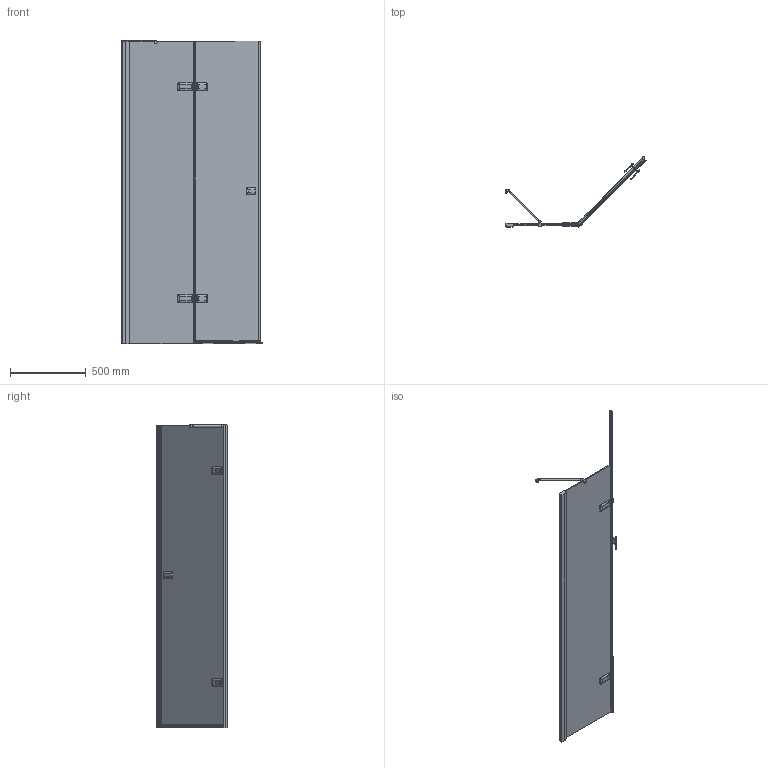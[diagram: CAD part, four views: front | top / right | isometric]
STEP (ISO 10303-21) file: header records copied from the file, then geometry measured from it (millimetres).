
FILE_DESCRIPTION(/* description */ (''),/* implementation_level */ '2;1');
FILE_NAME(/* name */ 'E:\Работа\Сергей\Душевые кабинки\! Работа\TREND DOOR GK-862AGP135ONE-03\TREND DOOR GK-862AGP135ONE-03 левая модель\TREND DOOR GK-862AGP135ONE-03 ЛЕВАЯ-3D.stp',/* time_stamp */ '2017-08-27T11:44:08+03:00',/* author */ ('PC'),/* organization */ (''),/* preprocessor_version */ 'ST-DEVELOPER v15.2',/* originating_system */ 'Autodesk Inventor 2014',/* authorisation */ '');
FILE_SCHEMA (('AUTOMOTIVE_DESIGN { 1 0 10303 214 3 1 1 }'));
Products named in the file (1): TREND DOOR GK-862AGP135ONE-03 \X2\041B041504120410042F
\X0\-3D
Bounding box: 926.08 x 465.11 x 2009.49 mm (x, y, z)
Volume: 17569199.3 mm3; surface area: 4786681.8 mm2
Topology: 5 solids, 5 shells, 1225 faces, 3347 edges, 2112 vertices
Faces by surface type: plane 740, cylinder 302, bspline 136, torus 21, cone 18, sphere 8
Full cylindrical faces by diameter (mm): 4 x3, 6 x2, 9 x8, 13 x2, 15 x1, 20 x2, 26 x1
Entity records: 55416 total; most frequent: CARTESIAN_POINT 23885, ORIENTED_EDGE 6518, DIRECTION 6059, EDGE_CURVE 3259, VERTEX_POINT 2095, LINE 2039, VECTOR 2039, AXIS2_PLACEMENT_3D 2010
